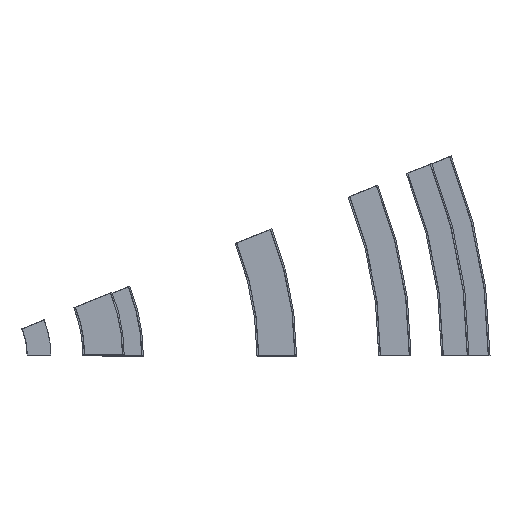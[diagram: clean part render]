
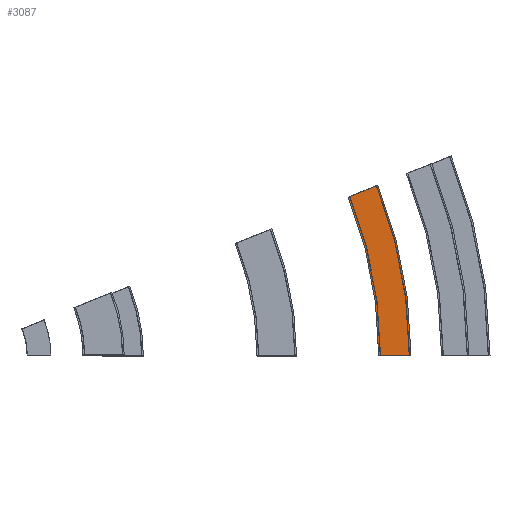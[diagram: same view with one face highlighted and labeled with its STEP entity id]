
A CAD part, top view. The second image highlights one B-rep face of the part: STEP entity #3087.
In plain terms, the highlighted planar face has unit normal (0, 0, 1).
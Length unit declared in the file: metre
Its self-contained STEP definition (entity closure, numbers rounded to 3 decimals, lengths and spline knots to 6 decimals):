
#2904 = CYLINDRICAL_SURFACE('',#2905,14.474421);
#2905 = AXIS2_PLACEMENT_3D('',#2906,#2907,#2908);
#2906 = CARTESIAN_POINT('',(0.,0.,6.029342));
#2907 = DIRECTION('',(0.,0.,1.));
#2908 = DIRECTION('',(1.,0.,-0.));
#2929 = VERTEX_POINT('',#2930);
#2930 = CARTESIAN_POINT('',(13.420449,5.422213,
    7.075421));
#2944 = PLANE('',#2945);
#2945 = AXIS2_PLACEMENT_3D('',#2946,#2947,#2948);
#2946 = CARTESIAN_POINT('',(13.933219,5.629386,
    6.522381));
#2947 = DIRECTION('',(-0.375,0.927,0.));
#2948 = DIRECTION('',(0.,0.,1.));
#2956 = EDGE_CURVE('',#2957,#2929,#2959,.T.);
#2957 = VERTEX_POINT('',#2958);
#2958 = CARTESIAN_POINT('',(14.474421,0.,7.075421));
#2959 = SURFACE_CURVE('',#2960,(#2965,#2972),.PCURVE_S1.);
#2960 = CIRCLE('',#2961,14.474421);
#2961 = AXIS2_PLACEMENT_3D('',#2962,#2963,#2964);
#2962 = CARTESIAN_POINT('',(0.,0.,7.075421));
#2963 = DIRECTION('',(0.,0.,1.));
#2964 = DIRECTION('',(1.,0.,-0.));
#2965 = PCURVE('',#2904,#2966);
#2966 = DEFINITIONAL_REPRESENTATION('',(#2967),#2971);
#2967 = LINE('',#2968,#2969);
#2968 = CARTESIAN_POINT('',(0.,1.046));
#2969 = VECTOR('',#2970,1.);
#2970 = DIRECTION('',(1.,0.));
#2971 = ( GEOMETRIC_REPRESENTATION_CONTEXT(2) 
PARAMETRIC_REPRESENTATION_CONTEXT() REPRESENTATION_CONTEXT('2D SPACE',''
  ) );
#2972 = PCURVE('',#2973,#2978);
#2973 = PLANE('',#2974);
#2974 = AXIS2_PLACEMENT_3D('',#2975,#2976,#2977);
#2975 = CARTESIAN_POINT('',(0.,0.,7.075421));
#2976 = DIRECTION('',(0.,0.,1.));
#2977 = DIRECTION('',(1.,0.,-0.));
#2978 = DEFINITIONAL_REPRESENTATION('',(#2979),#2983);
#2979 = CIRCLE('',#2980,14.474421);
#2980 = AXIS2_PLACEMENT_2D('',#2981,#2982);
#2981 = CARTESIAN_POINT('',(0.,0.));
#2982 = DIRECTION('',(1.,-0.));
#2983 = ( GEOMETRIC_REPRESENTATION_CONTEXT(2) 
PARAMETRIC_REPRESENTATION_CONTEXT() REPRESENTATION_CONTEXT('2D SPACE',''
  ) );
#2999 = PLANE('',#3000);
#3000 = AXIS2_PLACEMENT_3D('',#3001,#3002,#3003);
#3001 = CARTESIAN_POINT('',(15.02746,0.,6.522381));
#3002 = DIRECTION('',(0.,1.,0.));
#3003 = DIRECTION('',(0.,-0.,1.));
#3033 = CYLINDRICAL_SURFACE('',#3034,15.5805);
#3034 = AXIS2_PLACEMENT_3D('',#3035,#3036,#3037);
#3035 = CARTESIAN_POINT('',(0.,0.,7.015421));
#3036 = DIRECTION('',(-0.,-0.,-1.));
#3037 = DIRECTION('',(1.,0.,0.));
#3087 = ADVANCED_FACE('',(#3088),#2973,.T.);
#3088 = FACE_BOUND('',#3089,.F.);
#3089 = EDGE_LOOP('',(#3090,#3091,#3114,#3138));
#3090 = ORIENTED_EDGE('',*,*,#2956,.T.);
#3091 = ORIENTED_EDGE('',*,*,#3092,.T.);
#3092 = EDGE_CURVE('',#2929,#3093,#3095,.T.);
#3093 = VERTEX_POINT('',#3094);
#3094 = CARTESIAN_POINT('',(14.445988,5.836558,
    7.075421));
#3095 = SURFACE_CURVE('',#3096,(#3100,#3107),.PCURVE_S1.);
#3096 = LINE('',#3097,#3098);
#3097 = CARTESIAN_POINT('',(13.47608,5.44469,
    7.075421));
#3098 = VECTOR('',#3099,1.);
#3099 = DIRECTION('',(0.927,0.375,0.));
#3100 = PCURVE('',#2973,#3101);
#3101 = DEFINITIONAL_REPRESENTATION('',(#3102),#3106);
#3102 = LINE('',#3103,#3104);
#3103 = CARTESIAN_POINT('',(13.476,5.445));
#3104 = VECTOR('',#3105,1.);
#3105 = DIRECTION('',(0.927,0.375));
#3106 = ( GEOMETRIC_REPRESENTATION_CONTEXT(2) 
PARAMETRIC_REPRESENTATION_CONTEXT() REPRESENTATION_CONTEXT('2D SPACE',''
  ) );
#3107 = PCURVE('',#2944,#3108);
#3108 = DEFINITIONAL_REPRESENTATION('',(#3109),#3113);
#3109 = LINE('',#3110,#3111);
#3110 = CARTESIAN_POINT('',(0.553,-0.493));
#3111 = VECTOR('',#3112,1.);
#3112 = DIRECTION('',(0.,1.));
#3113 = ( GEOMETRIC_REPRESENTATION_CONTEXT(2) 
PARAMETRIC_REPRESENTATION_CONTEXT() REPRESENTATION_CONTEXT('2D SPACE',''
  ) );
#3114 = ORIENTED_EDGE('',*,*,#3115,.F.);
#3115 = EDGE_CURVE('',#3116,#3093,#3118,.T.);
#3116 = VERTEX_POINT('',#3117);
#3117 = CARTESIAN_POINT('',(15.5805,0.,7.075421));
#3118 = SURFACE_CURVE('',#3119,(#3124,#3131),.PCURVE_S1.);
#3119 = CIRCLE('',#3120,15.5805);
#3120 = AXIS2_PLACEMENT_3D('',#3121,#3122,#3123);
#3121 = CARTESIAN_POINT('',(0.,0.,7.075421));
#3122 = DIRECTION('',(0.,0.,1.));
#3123 = DIRECTION('',(1.,0.,-0.));
#3124 = PCURVE('',#2973,#3125);
#3125 = DEFINITIONAL_REPRESENTATION('',(#3126),#3130);
#3126 = CIRCLE('',#3127,15.5805);
#3127 = AXIS2_PLACEMENT_2D('',#3128,#3129);
#3128 = CARTESIAN_POINT('',(0.,0.));
#3129 = DIRECTION('',(1.,-0.));
#3130 = ( GEOMETRIC_REPRESENTATION_CONTEXT(2) 
PARAMETRIC_REPRESENTATION_CONTEXT() REPRESENTATION_CONTEXT('2D SPACE',''
  ) );
#3131 = PCURVE('',#3033,#3132);
#3132 = DEFINITIONAL_REPRESENTATION('',(#3133),#3137);
#3133 = LINE('',#3134,#3135);
#3134 = CARTESIAN_POINT('',(-0.,-0.06));
#3135 = VECTOR('',#3136,1.);
#3136 = DIRECTION('',(-1.,0.));
#3137 = ( GEOMETRIC_REPRESENTATION_CONTEXT(2) 
PARAMETRIC_REPRESENTATION_CONTEXT() REPRESENTATION_CONTEXT('2D SPACE',''
  ) );
#3138 = ORIENTED_EDGE('',*,*,#3139,.F.);
#3139 = EDGE_CURVE('',#2957,#3116,#3140,.T.);
#3140 = SURFACE_CURVE('',#3141,(#3145,#3152),.PCURVE_S1.);
#3141 = LINE('',#3142,#3143);
#3142 = CARTESIAN_POINT('',(14.534421,0.,7.075421));
#3143 = VECTOR('',#3144,1.);
#3144 = DIRECTION('',(1.,0.,0.));
#3145 = PCURVE('',#2973,#3146);
#3146 = DEFINITIONAL_REPRESENTATION('',(#3147),#3151);
#3147 = LINE('',#3148,#3149);
#3148 = CARTESIAN_POINT('',(14.534,-0.));
#3149 = VECTOR('',#3150,1.);
#3150 = DIRECTION('',(1.,-0.));
#3151 = ( GEOMETRIC_REPRESENTATION_CONTEXT(2) 
PARAMETRIC_REPRESENTATION_CONTEXT() REPRESENTATION_CONTEXT('2D SPACE',''
  ) );
#3152 = PCURVE('',#2999,#3153);
#3153 = DEFINITIONAL_REPRESENTATION('',(#3154),#3158);
#3154 = LINE('',#3155,#3156);
#3155 = CARTESIAN_POINT('',(0.553,-0.493));
#3156 = VECTOR('',#3157,1.);
#3157 = DIRECTION('',(0.,1.));
#3158 = ( GEOMETRIC_REPRESENTATION_CONTEXT(2) 
PARAMETRIC_REPRESENTATION_CONTEXT() REPRESENTATION_CONTEXT('2D SPACE',''
  ) );
